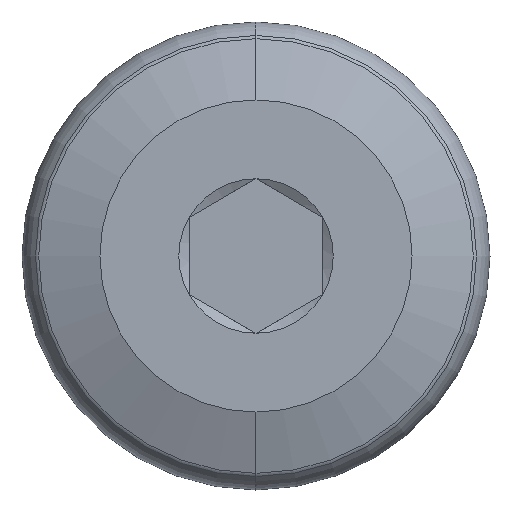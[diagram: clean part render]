
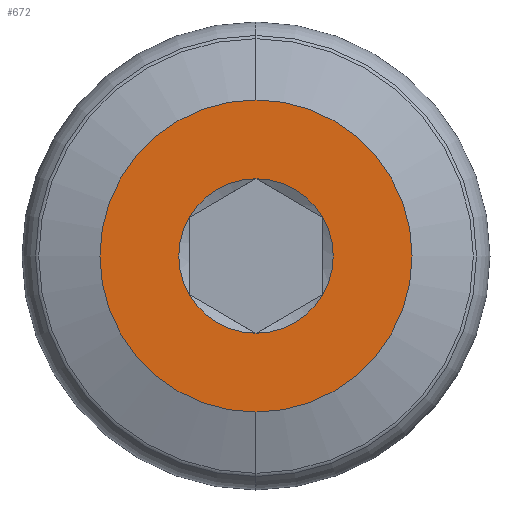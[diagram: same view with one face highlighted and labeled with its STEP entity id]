
A CAD part, left-side view. The second image highlights one B-rep face of the part: STEP entity #672.
In plain terms, the highlighted planar face has unit normal (-1, 0, 0).
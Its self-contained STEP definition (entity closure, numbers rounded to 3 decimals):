
#1 = CARTESIAN_POINT ( 'NONE',  ( 0., 0., -1.732 ) ) ;
#22 = DIRECTION ( 'NONE',  ( 1., 0., 0. ) ) ;
#24 = CARTESIAN_POINT ( 'NONE',  ( 0., -1.5, 0.866 ) ) ;
#33 = ORIENTED_EDGE ( 'NONE', *, *, #537, .F. ) ;
#47 = DIRECTION ( 'NONE',  ( 1., 0., 0. ) ) ;
#48 = CARTESIAN_POINT ( 'NONE',  ( 0., 0., -3.5 ) ) ;
#69 = AXIS2_PLACEMENT_3D ( 'NONE', #636, #47, #577 ) ;
#72 = VERTEX_POINT ( 'NONE', #48 ) ;
#86 = ORIENTED_EDGE ( 'NONE', *, *, #381, .T. ) ;
#89 = DIRECTION ( 'NONE',  ( 1., 0., 0. ) ) ;
#114 = VERTEX_POINT ( 'NONE', #1 ) ;
#122 = EDGE_LOOP ( 'NONE', ( #595, #391, #781, #148, #502, #86 ) ) ;
#146 = PLANE ( 'NONE',  #217 ) ;
#148 = ORIENTED_EDGE ( 'NONE', *, *, #196, .T. ) ;
#174 = CIRCLE ( 'NONE', #642, 3.5 ) ;
#175 = AXIS2_PLACEMENT_3D ( 'NONE', #529, #89, #353 ) ;
#189 = VERTEX_POINT ( 'NONE', #726 ) ;
#196 = EDGE_CURVE ( 'NONE', #189, #114, #494, .T. ) ;
#212 = FACE_OUTER_BOUND ( 'NONE', #427, .T. ) ;
#217 = AXIS2_PLACEMENT_3D ( 'NONE', #661, #406, #475 ) ;
#232 = DIRECTION ( 'NONE',  ( 1., 0., 0. ) ) ;
#235 = DIRECTION ( 'NONE',  ( 0., 0., -1. ) ) ;
#237 = EDGE_CURVE ( 'NONE', #324, #562, #803, .T. ) ;
#239 = DIRECTION ( 'NONE',  ( 0., 0., -1. ) ) ;
#246 = DIRECTION ( 'NONE',  ( 0., 0., -1. ) ) ;
#262 = CIRCLE ( 'NONE', #332, 1.732 ) ;
#299 = ORIENTED_EDGE ( 'NONE', *, *, #685, .F. ) ;
#308 = CARTESIAN_POINT ( 'NONE',  ( 0., 0., 1.732 ) ) ;
#315 = AXIS2_PLACEMENT_3D ( 'NONE', #814, #232, #235 ) ;
#324 = VERTEX_POINT ( 'NONE', #619 ) ;
#330 = FACE_BOUND ( 'NONE', #122, .T. ) ;
#332 = AXIS2_PLACEMENT_3D ( 'NONE', #678, #501, #755 ) ;
#338 = VERTEX_POINT ( 'NONE', #24 ) ;
#353 = DIRECTION ( 'NONE',  ( 0., 0., -1. ) ) ;
#381 = EDGE_CURVE ( 'NONE', #469, #324, #790, .T. ) ;
#383 = EDGE_CURVE ( 'NONE', #338, #189, #262, .T. ) ;
#391 = ORIENTED_EDGE ( 'NONE', *, *, #559, .T. ) ;
#406 = DIRECTION ( 'NONE',  ( -1., 0., 0. ) ) ;
#411 = DIRECTION ( 'NONE',  ( 0., 0., -1. ) ) ;
#427 = EDGE_LOOP ( 'NONE', ( #299, #33 ) ) ;
#469 = VERTEX_POINT ( 'NONE', #518 ) ;
#475 = DIRECTION ( 'NONE',  ( 0., 0., 1. ) ) ;
#477 = CARTESIAN_POINT ( 'NONE',  ( 0., 0., 3.5 ) ) ;
#481 = AXIS2_PLACEMENT_3D ( 'NONE', #640, #824, #239 ) ;
#493 = EDGE_CURVE ( 'NONE', #114, #469, #761, .T. ) ;
#494 = CIRCLE ( 'NONE', #706, 1.732 ) ;
#501 = DIRECTION ( 'NONE',  ( 1., 0., 0. ) ) ;
#502 = ORIENTED_EDGE ( 'NONE', *, *, #493, .T. ) ;
#518 = CARTESIAN_POINT ( 'NONE',  ( 0., 1.5, -0.866 ) ) ;
#529 = CARTESIAN_POINT ( 'NONE',  ( 0., 0., 0. ) ) ;
#532 = DIRECTION ( 'NONE',  ( 0., 0., -1. ) ) ;
#537 = EDGE_CURVE ( 'NONE', #836, #72, #538, .T. ) ;
#538 = CIRCLE ( 'NONE', #481, 3.5 ) ;
#559 = EDGE_CURVE ( 'NONE', #562, #338, #575, .T. ) ;
#562 = VERTEX_POINT ( 'NONE', #308 ) ;
#575 = CIRCLE ( 'NONE', #69, 1.732 ) ;
#577 = DIRECTION ( 'NONE',  ( 0., 0., -1. ) ) ;
#595 = ORIENTED_EDGE ( 'NONE', *, *, #237, .T. ) ;
#596 = CARTESIAN_POINT ( 'NONE',  ( 0., 0., 0. ) ) ;
#619 = CARTESIAN_POINT ( 'NONE',  ( 0., 1.5, 0.866 ) ) ;
#633 = DIRECTION ( 'NONE',  ( 1., 0., 0. ) ) ;
#636 = CARTESIAN_POINT ( 'NONE',  ( 0., 0., 0. ) ) ;
#640 = CARTESIAN_POINT ( 'NONE',  ( 0., 0., 0. ) ) ;
#642 = AXIS2_PLACEMENT_3D ( 'NONE', #596, #22, #411 ) ;
#661 = CARTESIAN_POINT ( 'NONE',  ( 0., 3.5, 0. ) ) ;
#672 = ADVANCED_FACE ( 'NONE', ( #330, #212 ), #146, .T. ) ;
#678 = CARTESIAN_POINT ( 'NONE',  ( 0., 0., 0. ) ) ;
#682 = AXIS2_PLACEMENT_3D ( 'NONE', #834, #633, #246 ) ;
#685 = EDGE_CURVE ( 'NONE', #72, #836, #174, .T. ) ;
#706 = AXIS2_PLACEMENT_3D ( 'NONE', #787, #796, #532 ) ;
#726 = CARTESIAN_POINT ( 'NONE',  ( 0., -1.5, -0.866 ) ) ;
#755 = DIRECTION ( 'NONE',  ( 0., 0., -1. ) ) ;
#761 = CIRCLE ( 'NONE', #682, 1.732 ) ;
#781 = ORIENTED_EDGE ( 'NONE', *, *, #383, .T. ) ;
#787 = CARTESIAN_POINT ( 'NONE',  ( 0., 0., 0. ) ) ;
#790 = CIRCLE ( 'NONE', #315, 1.732 ) ;
#796 = DIRECTION ( 'NONE',  ( 1., 0., 0. ) ) ;
#803 = CIRCLE ( 'NONE', #175, 1.732 ) ;
#814 = CARTESIAN_POINT ( 'NONE',  ( 0., 0., 0. ) ) ;
#824 = DIRECTION ( 'NONE',  ( 1., 0., 0. ) ) ;
#834 = CARTESIAN_POINT ( 'NONE',  ( 0., 0., 0. ) ) ;
#836 = VERTEX_POINT ( 'NONE', #477 ) ;
